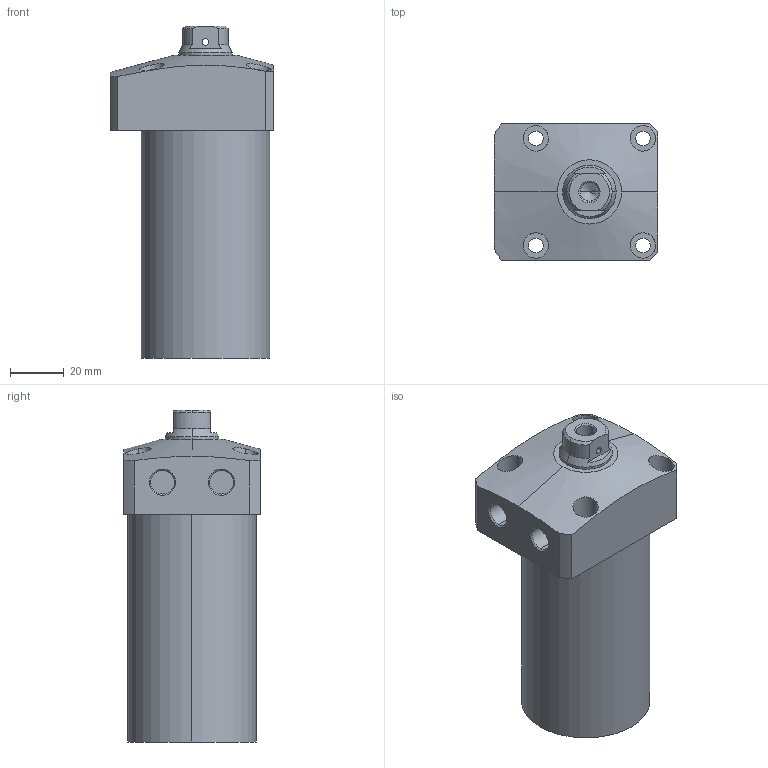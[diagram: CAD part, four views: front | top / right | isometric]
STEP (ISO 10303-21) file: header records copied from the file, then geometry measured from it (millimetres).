
FILE_DESCRIPTION (( 'STEP AP203' ), '1' );
FILE_NAME ('CLL-0480-CB-75.STEP', '2017-05-09T03:17:00', ( '' ), ( '' ), 'SwSTEP 2.0', 'SolidWorks 2015', '' );
FILE_SCHEMA (( 'CONFIG_CONTROL_DESIGN' ));
Length unit declared in the file: millimetre
Products named in the file (1): CLL-0480-CB-75
Bounding box: 61 x 51 x 124 mm (x, y, z)
Volume: 228382.2 mm3; surface area: 27419.5 mm2
Topology: 1 solids, 1 shells, 76 faces, 181 edges, 116 vertices
Faces by surface type: cylinder 39, plane 22, cone 15
Entity records: 2695 total; most frequent: CARTESIAN_POINT 818, DIRECTION 386, ORIENTED_EDGE 358, EDGE_CURVE 179, AXIS2_PLACEMENT_3D 158, VERTEX_POINT 116, EDGE_LOOP 99, CIRCLE 81
